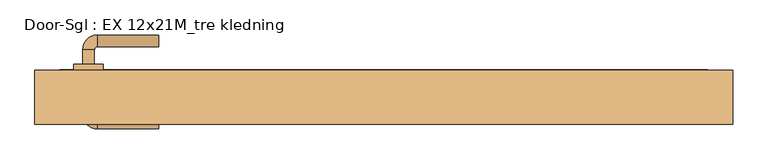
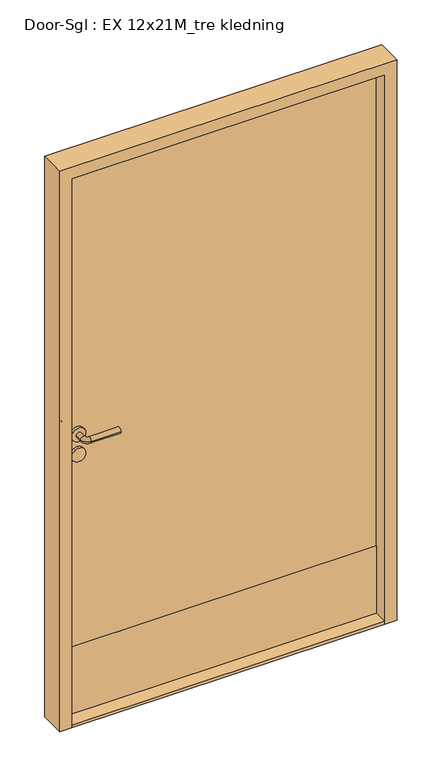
"""IFC4 building model written with IfcOpenShell, lengths in millimetres: door geometry, Door-Sgl : EX 12x21M_tre kledning."""

from ifc_helpers import new_model, si_unit, point, frame, frame_2d, origin, origin_with_axes, place, context, project, spatial, polyline, circle_curve, ellipse_curve, trimmed, segment, composite_curve, outline, extrude, source, transform, mapped, element, save
from ifc_brep_helpers import plane_surface, cylinder_surface, revolved_surface, advanced_brep


def door_sgl_ex_12x21m_tre_kledning_16f67397(model_context):
    return source(origin(), model_context, "Body", "SolidModel", [
        extrude(outline(polyline([(0.0, 553.0), (0.0, 595.0), (2090.0, 595.0), (2090.0, -595.0), (0.0, -595.0), (0.0, -553.0), (2048.0, -553.0), (2048.0, 553.0), (0.0, 553.0)])), frame((0.0, 66.0, 0.0), z_axis=(0.0, 1.0, 0.0), x_axis=(0.0, 0.0, 1.0)), (0.0, 0.0, 1.0), 92.0),
        extrude(outline(composite_curve([segment(trimmed(circle_curve(frame_2d((1050.0, -503.5)), 25.0), [point((1050.0, -528.5))], [point((1050.0, -478.5))], False, "CARTESIAN"), True, "CONTINUOUS"), segment(trimmed(circle_curve(frame_2d((1050.0, -503.5)), 25.0), [point((1050.0, -478.5))], [point((1050.0, -528.5))], False, "CARTESIAN"), True, "CONTINUOUS")], self_intersect=False)), frame((0.0, 158.0, 0.0), z_axis=(0.0, 1.0, 0.0), x_axis=(0.0, 0.0, 1.0)), (0.0, 0.0, 1.0), 10.0),
        extrude(outline(composite_curve([segment(trimmed(circle_curve(frame_2d((975.0, -503.5)), 25.0), [point((975.0, -528.5))], [point((975.0, -478.5))], False, "CARTESIAN"), True, "CONTINUOUS"), segment(trimmed(circle_curve(frame_2d((975.0, -503.5)), 25.0), [point((975.0, -478.5))], [point((975.0, -528.5))], False, "CARTESIAN"), True, "CONTINUOUS")], self_intersect=False)), frame((0.0, 158.0, 0.0), z_axis=(0.0, 1.0, 0.0), x_axis=(0.0, 0.0, 1.0)), (0.0, 0.0, 1.0), 10.0),
        advanced_brep(
        [(-493.5, 168.0, 1050.0), (-513.5, 168.0, 1050.0), (-493.5, 193.0, 1050.0), (-513.5, 193.0, 1050.0), (-488.5, 218.0, 1050.0), (-488.5, 198.0, 1050.0), (-383.5, 198.0, 1050.0), (-383.5, 218.0, 1050.0)],
        [
            (0, 1, circle_curve(frame((-503.5, 168.0, 1050.0), z_axis=(0.0, -1.0, 0.0), x_axis=(-1.0, 0.0, 0.0)), 10.0)),
            (1, 0, circle_curve(frame((-503.5, 168.0, 1050.0), z_axis=(0.0, -1.0, 0.0), x_axis=(-1.0, 0.0, 0.0)), 10.0)),
            (0, 2),
            (2, 3, circle_curve(frame((-503.5, 193.0, 1050.0), z_axis=(0.0, -1.0, 0.0), x_axis=(-1.0, 0.0, 0.0)), 10.0)),
            (3, 1),
            (3, 2, circle_curve(frame((-503.5, 193.0, 1050.0), z_axis=(0.0, -1.0, 0.0), x_axis=(-1.0, 0.0, 0.0)), 10.0)),
            (4, 3, circle_curve(frame((-488.5, 193.0, 1050.0), z_axis=(0.0, 0.0, 1.0), x_axis=(-1.0, 0.0, 0.0)), 25.0)),
            (2, 5, circle_curve(frame((-488.5, 193.0, 1050.0), z_axis=(0.0, 0.0, -1.0), x_axis=(-1.0, 0.0, 0.0)), 5.0)),
            (5, 4, circle_curve(frame((-488.5, 208.0, 1050.0), z_axis=(-1.0, 0.0, 0.0), x_axis=(0.0, 1.0, 0.0)), 10.0)),
            (4, 5, circle_curve(frame((-488.5, 208.0, 1050.0), z_axis=(-1.0, 0.0, 0.0), x_axis=(0.0, 1.0, 0.0)), 10.0)),
            (6, 7, circle_curve(frame((-383.5, 208.0, 1050.0), z_axis=(1.0, 0.0, 0.0), x_axis=(0.0, 1.0, 0.0)), 10.0)),
            (7, 6, circle_curve(frame((-383.5, 208.0, 1050.0), z_axis=(1.0, 0.0, 0.0), x_axis=(0.0, 1.0, 0.0)), 10.0)),
            (5, 6),
            (7, 4),
        ],
        [
            plane_surface(frame((-503.5, 168.0, 0.0), z_axis=(0.0, -1.0, 0.0), x_axis=(0.0, 0.0, 1.0))),
            cylinder_surface(frame((-503.5, 168.0, 1050.0), z_axis=(0.0, -1.0, 0.0), x_axis=(-1.0, 0.0, 0.0)), 10.0),
            revolved_surface(trimmed(ellipse_curve(frame((-503.5, 193.0, 1050.0), z_axis=(0.0, -1.0, 0.0), x_axis=(-1.0, 0.0, 0.0)), 10.0, 10.0), [point((-493.5, 193.0, 1050.0))], [point((-513.5, 193.0, 1050.0))], True, "CARTESIAN"), (-488.5, 193.0, 0.0), (0.0, 0.0, -1.0)),
            revolved_surface(trimmed(ellipse_curve(frame((-503.5, 193.0, 1050.0), z_axis=(0.0, -1.0, 0.0), x_axis=(-1.0, 0.0, 0.0)), 10.0, 10.0), [point((-513.5, 193.0, 1050.0))], [point((-493.5, 193.0, 1050.0))], True, "CARTESIAN"), (-488.5, 193.0, 0.0), (0.0, 0.0, -1.0)),
            plane_surface(frame((-383.5, 208.0, 0.0), z_axis=(1.0, 0.0, 0.0), x_axis=(0.0, 0.0, 1.0))),
            cylinder_surface(frame((-488.5, 208.0, 1050.0), z_axis=(-1.0, 0.0, 0.0), x_axis=(0.0, 1.0, 0.0)), 10.0),
        ],
        [
            (0, [[1, 2]]),
            (1, [[-1, 3, 4, 5]]),
            (1, [[-2, -5, 6, -3]]),
            (2, [[7, -4, 8, 9]]),
            (3, [[-8, -6, -7, 10]]),
            (4, [[11, 12]]),
            (5, [[-9, 13, -12, 14]]),
            (5, [[-10, -14, -11, -13]]),
        ],
    ),
        extrude(outline(composite_curve([segment(trimmed(circle_curve(frame_2d((1050.0, -503.5)), 25.0), [point((1050.0, -528.5))], [point((1050.0, -478.5))], False, "CARTESIAN"), True, "CONTINUOUS"), segment(trimmed(circle_curve(frame_2d((1050.0, -503.5)), 25.0), [point((1050.0, -478.5))], [point((1050.0, -528.5))], False, "CARTESIAN"), True, "CONTINUOUS")], self_intersect=False)), frame((0.0, 108.0, 0.0), z_axis=(0.0, 1.0, 0.0), x_axis=(0.0, 0.0, 1.0)), (0.0, 0.0, 1.0), 10.0),
        extrude(outline(composite_curve([segment(trimmed(circle_curve(frame_2d((975.0, -503.5)), 25.0), [point((975.0, -528.5))], [point((975.0, -478.5))], False, "CARTESIAN"), True, "CONTINUOUS"), segment(trimmed(circle_curve(frame_2d((975.0, -503.5)), 25.0), [point((975.0, -478.5))], [point((975.0, -528.5))], False, "CARTESIAN"), True, "CONTINUOUS")], self_intersect=False)), frame((0.0, 108.0, 0.0), z_axis=(0.0, 1.0, 0.0), x_axis=(0.0, 0.0, 1.0)), (0.0, 0.0, 1.0), 10.0),
        advanced_brep(
        [(-513.5, 108.0, 1050.0), (-493.5, 108.0, 1050.0), (-493.5, 83.0, 1050.0), (-513.5, 83.0, 1050.0), (-488.5, 58.0, 1050.0), (-488.5, 78.0, 1050.0), (-383.5, 58.0, 1050.0), (-383.5, 78.0, 1050.0)],
        [
            (0, 1, circle_curve(frame((-503.5, 108.0, 1050.0), z_axis=(0.0, 1.0, 0.0), x_axis=(1.0, 0.0, 0.0)), 10.0)),
            (1, 0, circle_curve(frame((-503.5, 108.0, 1050.0), z_axis=(0.0, 1.0, 0.0), x_axis=(1.0, 0.0, 0.0)), 10.0)),
            (1, 2),
            (2, 3, circle_curve(frame((-503.5, 83.0, 1050.0), z_axis=(0.0, 1.0, 0.0), x_axis=(1.0, 0.0, 0.0)), 10.0)),
            (3, 0),
            (3, 2, circle_curve(frame((-503.5, 83.0, 1050.0), z_axis=(0.0, 1.0, 0.0), x_axis=(1.0, 0.0, 0.0)), 10.0)),
            (4, 3, circle_curve(frame((-488.5, 83.0, 1050.0), z_axis=(0.0, 0.0, -1.0), x_axis=(-1.0, 0.0, 0.0)), 25.0)),
            (2, 5, circle_curve(frame((-488.5, 83.0, 1050.0), z_axis=(0.0, 0.0, 1.0), x_axis=(-1.0, 0.0, 0.0)), 5.0)),
            (5, 4, circle_curve(frame((-488.5, 68.0, 1050.0), z_axis=(-1.0, 0.0, 0.0), x_axis=(0.0, 1.0, 0.0)), 10.0)),
            (4, 5, circle_curve(frame((-488.5, 68.0, 1050.0), z_axis=(-1.0, 0.0, 0.0), x_axis=(0.0, 1.0, 0.0)), 10.0)),
            (6, 7, circle_curve(frame((-383.5, 68.0, 1050.0), z_axis=(1.0, 0.0, 0.0), x_axis=(0.0, 1.0, 0.0)), 10.0)),
            (7, 6, circle_curve(frame((-383.5, 68.0, 1050.0), z_axis=(1.0, 0.0, 0.0), x_axis=(0.0, 1.0, 0.0)), 10.0)),
            (5, 7),
            (6, 4),
        ],
        [
            plane_surface(frame((-503.5, 108.0, 0.0), z_axis=(0.0, 1.0, 0.0), x_axis=(0.0, 0.0, 1.0))),
            cylinder_surface(frame((-503.5, 108.0, 1050.0), z_axis=(0.0, 1.0, 0.0), x_axis=(1.0, 0.0, 0.0)), 10.0),
            revolved_surface(trimmed(ellipse_curve(frame((-503.5, 83.0, 1050.0), z_axis=(0.0, 1.0, 0.0), x_axis=(1.0, 0.0, 0.0)), 10.0, 10.0), [point((-493.5, 83.0, 1050.0))], [point((-513.5, 83.0, 1050.0))], True, "CARTESIAN"), (-488.5, 83.0, 0.0), (0.0, 0.0, 1.0)),
            revolved_surface(trimmed(ellipse_curve(frame((-503.5, 83.0, 1050.0), z_axis=(0.0, 1.0, 0.0), x_axis=(1.0, 0.0, 0.0)), 10.0, 10.0), [point((-513.5, 83.0, 1050.0))], [point((-493.5, 83.0, 1050.0))], True, "CARTESIAN"), (-488.5, 83.0, 0.0), (0.0, 0.0, 1.0)),
            plane_surface(frame((-383.5, 68.0, 0.0), z_axis=(1.0, 0.0, 0.0), x_axis=(0.0, 0.0, 1.0))),
            cylinder_surface(frame((-488.5, 68.0, 1050.0), z_axis=(-1.0, 0.0, 0.0), x_axis=(0.0, 1.0, 0.0)), 10.0),
        ],
        [
            (0, [[1, 2]]),
            (1, [[-2, 3, 4, 5]]),
            (1, [[-1, -5, 6, -3]]),
            (2, [[7, -4, 8, 9]]),
            (3, [[-8, -6, -7, 10]]),
            (4, [[11, 12]]),
            (5, [[-9, 13, -11, 14]]),
            (5, [[-10, -14, -12, -13]]),
        ],
    ),
        extrude(outline(polyline([(553.0, 118.0), (-553.0, 118.0), (-553.0, 158.0), (553.0, 158.0), (553.0, 118.0)])), frame((0.0, 0.0, 10.0), z_axis=(0.0, 0.0, 1.0), x_axis=(1.0, 0.0, 0.0)), (0.0, 0.0, 1.0), 2038.0),
        extrude(outline(polyline([(553.0, 159.0), (553.0, 158.0), (-553.0, 158.0), (-553.0, 159.0), (553.0, 159.0)])), frame((0.0, 0.0, 10.0), z_axis=(0.0, 0.0, 1.0), x_axis=(1.0, 0.0, 0.0)), (0.0, 0.0, 1.0), 250.0),
        extrude(outline(polyline([(553.0, 118.0), (553.0, 117.0), (-553.0, 117.0), (-553.0, 118.0), (553.0, 118.0)])), frame((0.0, 0.0, 10.0), z_axis=(0.0, 0.0, 1.0), x_axis=(1.0, 0.0, 0.0)), (0.0, 0.0, 1.0), 250.0),
        extrude(outline(polyline([(553.0, 66.0), (-553.0, 66.0), (-553.0, 158.0), (553.0, 158.0), (553.0, 66.0)])), origin_with_axes(), (0.0, 0.0, 1.0), 10.0),
    ])


if __name__ == "__main__":
    model = new_model("IFC4")
    model_context = context("Model", 3, world=origin())
    ifc_project = project(units=[si_unit("LENGTHUNIT", "METRE", prefix="MILLI")], contexts=[model_context])
    site = spatial("IfcSite", under=ifc_project)
    building = spatial("IfcBuilding", under=site)
    placement = place(None, origin())
    door_sgl_ex_12x21m_tre_kledning_shape = door_sgl_ex_12x21m_tre_kledning_16f67397(model_context)
    element("IfcDoor", 1, ObjectType="Door-Sgl : EX 12x21M_tre kledning", at=placement, inside=building, context=model_context, shape_type="MappedRepresentation", body=[
        mapped(door_sgl_ex_12x21m_tre_kledning_shape, transform((0.0, 0.0, 0.0), x_axis=(1.0, 0.0, 0.0), y_axis=(0.0, 1.0, 0.0), z_axis=(0.0, 0.0, 1.0))),
    ])
    save(model, "model.ifc")
